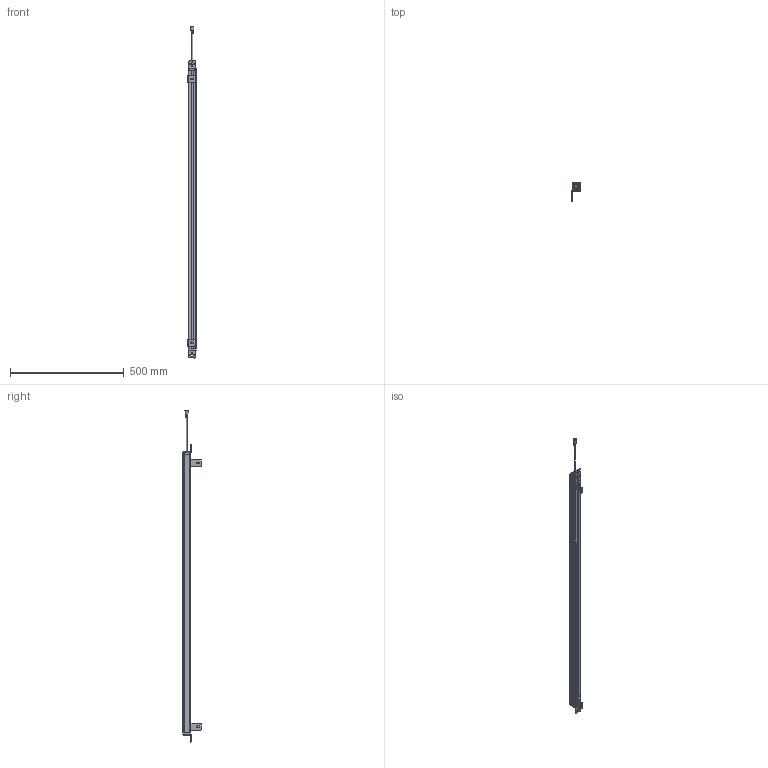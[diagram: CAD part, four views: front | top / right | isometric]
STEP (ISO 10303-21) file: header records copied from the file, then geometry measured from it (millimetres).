
FILE_DESCRIPTION(/* description */ (''),/* implementation_level */ '2;1');
FILE_NAME(/* name */ 'MTD3040.stp',/* time_stamp */ '2023-12-04T16:35:32+08:00',/* author */ (''),/* organization */ (''),/* preprocessor_version */ 'ST-DEVELOPER v16.7',/* originating_system */ 'SIEMENS PLM Software NX 12.0',/* authorisation */ '');
FILE_SCHEMA (('AP203_CONFIGURATION_CONTROLLED_3D_DESIGN_OF_MECHANICAL_PARTS_AND_ASSEMBLIES_MIM_LF { 1 0 10303 403 2 1 2}'));
Length unit declared in the file: millimetre
Products named in the file (1): 1040（35X35__stp
Bounding box: 37 x 80.6 x 1462.01 mm (x, y, z)
Volume: 604191.2 mm3; surface area: 454125.8 mm2
Topology: 10 solids, 10 shells, 563 faces, 1626 edges, 1096 vertices
Faces by surface type: plane 325, cylinder 202, cone 36
Full cylindrical faces by diameter (mm): 4.4 x1, 9 x1, 12.5 x1
Entity records: 18960 total; most frequent: CARTESIAN_POINT 3363, DIRECTION 3263, ORIENTED_EDGE 3230, EDGE_CURVE 1615, VERTEX_POINT 1092, AXIS2_PLACEMENT_3D 1088, LINE 1087, VECTOR 1087
